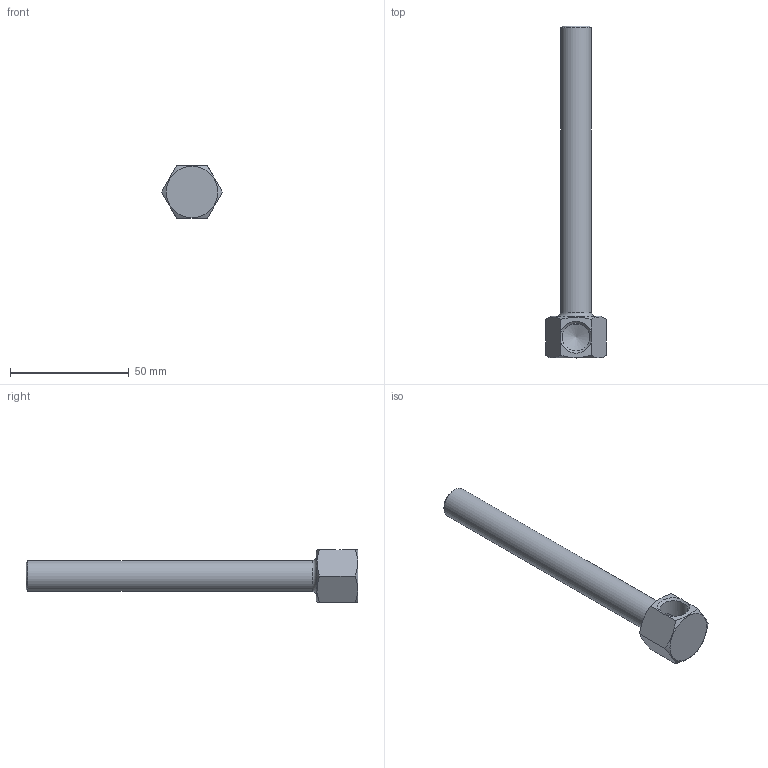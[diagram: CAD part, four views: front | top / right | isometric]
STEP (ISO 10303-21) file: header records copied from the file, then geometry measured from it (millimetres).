
FILE_DESCRIPTION(/* description */ (''),/* implementation_level */ '2;1');
FILE_NAME(/* name */ 'C:/Users/drich/Desktop/14B-5-1_2 v1.step',/* time_stamp */ '2019-12-29T15:18:28-06:00',/* author */ (''),/* organization */ (''),/* preprocessor_version */ 'ST-DEVELOPER v18',/* originating_system */ 'Autodesk Translation Framework v8.12.0.6',/* authorisation */ '');
FILE_SCHEMA (('AUTOMOTIVE_DESIGN { 1 0 10303 214 3 1 1 }'));
Length unit declared in the file: inch
Products named in the file (1): 14B-5-1_2
Bounding box: 25.66 x 139.7 x 22.23 mm (x, y, z)
Volume: 14528.9 mm3; surface area: 10960.8 mm2
Topology: 1 solids, 1 shells, 20 faces, 55 edges, 36 vertices
Faces by surface type: plane 10, cone 6, cylinder 3, torus 1
Full cylindrical faces by diameter (mm): 8.712 x1, 11.668 x1, 13.032 x1
Entity records: 710 total; most frequent: CARTESIAN_POINT 197, ORIENTED_EDGE 108, DIRECTION 93, EDGE_CURVE 54, AXIS2_PLACEMENT_3D 38, VERTEX_POINT 36, EDGE_LOOP 22, FACE_OUTER_BOUND 20
